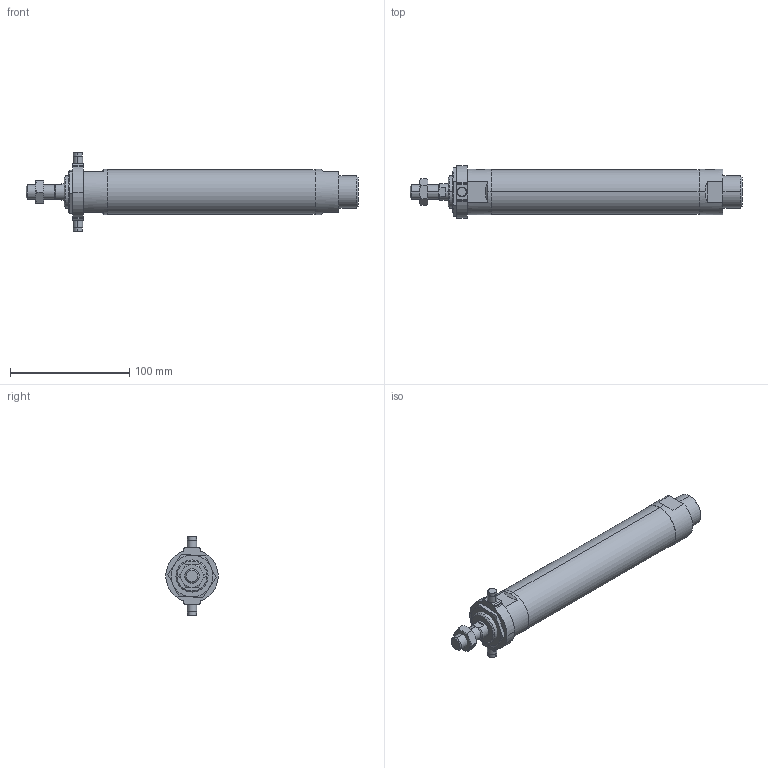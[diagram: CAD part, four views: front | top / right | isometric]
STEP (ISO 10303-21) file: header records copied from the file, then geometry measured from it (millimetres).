
FILE_DESCRIPTION (( 'STEP AP203' ), '1' );
FILE_NAME ('J#2-32-125-T.STEP', '2016-03-08T07:40:03', ( '' ), ( '' ), 'SwSTEP 2.0', 'SolidWorks 2014', '' );
FILE_SCHEMA (( 'CONFIG_CONTROL_DESIGN' ));
Length unit declared in the file: millimetre
Products named in the file (5): J#2-32-125-T; J#2-32-T; J#2-32-125
Assembly tree (4 placements, depth 2):
  J#2-32-125-T
    J#2-32-125
    (unnamed)
    (unnamed)
    J#2-32-T
Bounding box: 278 x 44 x 66 mm (x, y, z)
Volume: 269659.7 mm3; surface area: 39956.3 mm2
Topology: 4 solids, 4 shells, 133 faces, 303 edges, 183 vertices
Faces by surface type: cylinder 43, plane 43, torus 24, cone 23
Entity records: 4649 total; most frequent: CARTESIAN_POINT 1181, DIRECTION 640, ORIENTED_EDGE 598, EDGE_CURVE 299, AXIS2_PLACEMENT_3D 264, VERTEX_POINT 183, EDGE_LOOP 148, FACE_OUTER_BOUND 133
